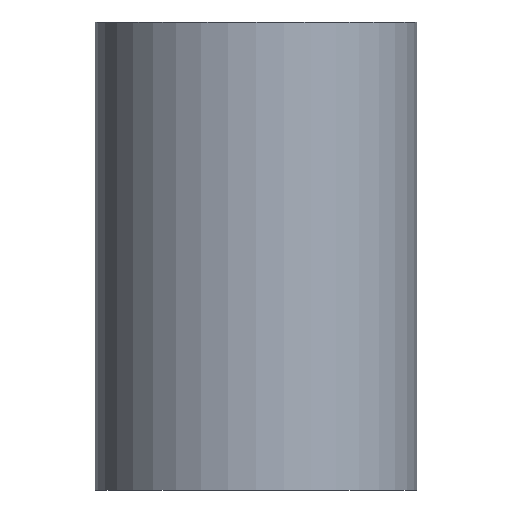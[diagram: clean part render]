
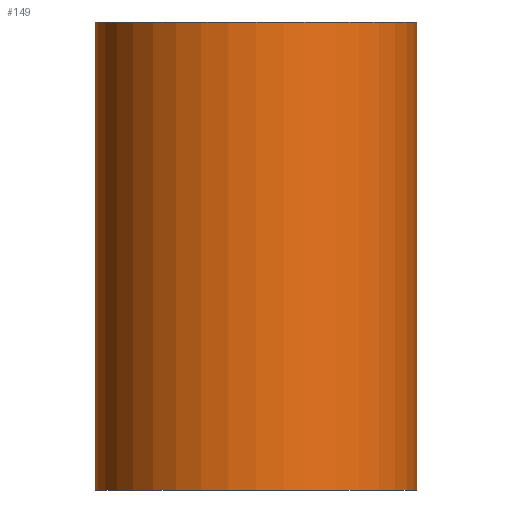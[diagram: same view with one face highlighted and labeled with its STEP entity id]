
A CAD part, front view. The second image highlights one B-rep face of the part: STEP entity #149.
In plain terms, the highlighted cylindrical face has radius 11 mm (diameter 22 mm), a full revolution.
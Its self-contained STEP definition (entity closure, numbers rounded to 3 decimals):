
#34=LINE('',#313,#38);
#38=VECTOR('',#267,11.);
#42=CYLINDRICAL_SURFACE('',#213,11.);
#53=FACE_OUTER_BOUND('',#64,.T.);
#64=EDGE_LOOP('',(#130,#131,#132,#133,#134,#135));
#73=CIRCLE('',#208,11.);
#74=CIRCLE('',#209,11.);
#77=CIRCLE('',#214,11.);
#78=CIRCLE('',#215,11.);
#85=VERTEX_POINT('',#298);
#86=VERTEX_POINT('',#299);
#89=VERTEX_POINT('',#309);
#90=VERTEX_POINT('',#310);
#99=EDGE_CURVE('',#85,#86,#73,.T.);
#100=EDGE_CURVE('',#86,#85,#74,.T.);
#104=EDGE_CURVE('',#89,#90,#77,.T.);
#105=EDGE_CURVE('',#90,#89,#78,.T.);
#106=EDGE_CURVE('',#90,#86,#34,.T.);
#130=ORIENTED_EDGE('',*,*,#104,.F.);
#131=ORIENTED_EDGE('',*,*,#105,.F.);
#132=ORIENTED_EDGE('',*,*,#106,.T.);
#133=ORIENTED_EDGE('',*,*,#99,.F.);
#134=ORIENTED_EDGE('',*,*,#100,.F.);
#135=ORIENTED_EDGE('',*,*,#106,.F.);
#149=ADVANCED_FACE('',(#53),#42,.T.);
#208=AXIS2_PLACEMENT_3D('',#300,#250,#251);
#209=AXIS2_PLACEMENT_3D('',#301,#252,#253);
#213=AXIS2_PLACEMENT_3D('',#308,#261,#262);
#214=AXIS2_PLACEMENT_3D('',#311,#263,#264);
#215=AXIS2_PLACEMENT_3D('',#312,#265,#266);
#250=DIRECTION('center_axis',(0.,0.,-1.));
#251=DIRECTION('ref_axis',(1.,0.,0.));
#252=DIRECTION('center_axis',(0.,0.,-1.));
#253=DIRECTION('ref_axis',(1.,0.,0.));
#261=DIRECTION('center_axis',(0.,0.,1.));
#262=DIRECTION('ref_axis',(1.,0.,0.));
#263=DIRECTION('center_axis',(0.,0.,1.));
#264=DIRECTION('ref_axis',(1.,0.,0.));
#265=DIRECTION('center_axis',(0.,0.,1.));
#266=DIRECTION('ref_axis',(1.,0.,0.));
#267=DIRECTION('',(0.,0.,-1.));
#298=CARTESIAN_POINT('',(11.,0.,-16.));
#299=CARTESIAN_POINT('',(-11.,0.,-16.));
#300=CARTESIAN_POINT('Origin',(0.,0.,-16.));
#301=CARTESIAN_POINT('Origin',(0.,0.,-16.));
#308=CARTESIAN_POINT('Origin',(0.,0.,0.));
#309=CARTESIAN_POINT('',(11.,0.,16.));
#310=CARTESIAN_POINT('',(-11.,0.,16.));
#311=CARTESIAN_POINT('Origin',(0.,0.,16.));
#312=CARTESIAN_POINT('Origin',(0.,0.,16.));
#313=CARTESIAN_POINT('',(-11.,0.,0.));
